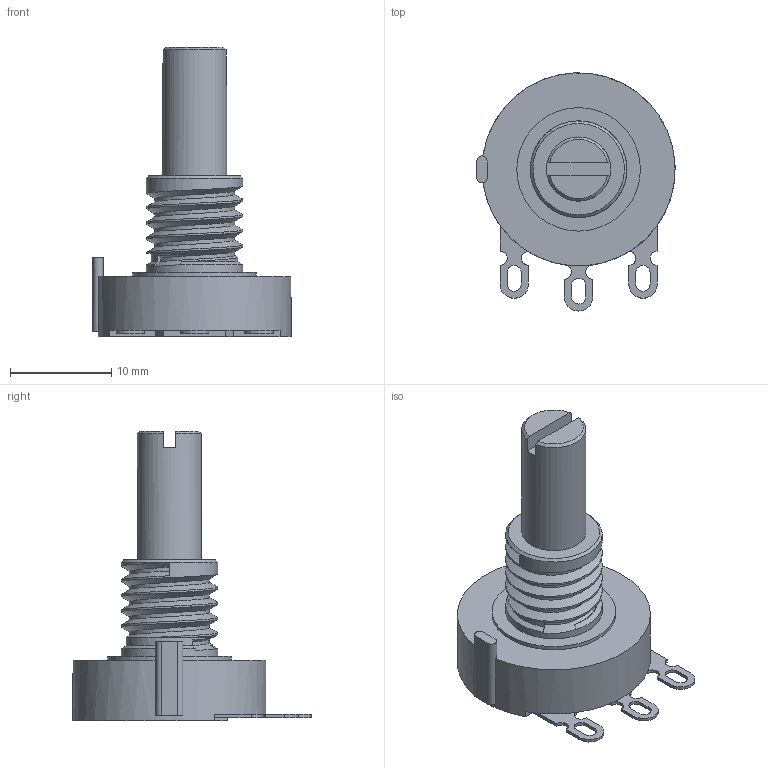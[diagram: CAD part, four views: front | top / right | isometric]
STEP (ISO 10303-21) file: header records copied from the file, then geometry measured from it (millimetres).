
FILE_DESCRIPTION((''),'2;1');
FILE_NAME('C:\Users\A.V.Nesterov\Desktop\111\3D\ТЗ\ТЗ 113959\РСГ01_3D.stp','2024-11-06T12:57:08',('A.V.Nesterov'),(''),'Autodesk Inventor 2012','Autodesk Inventor 2012','');
FILE_SCHEMA(('AUTOMOTIVE_DESIGN { 1 0 10303 214 1 1 1 1 }'));
Length unit declared in the file: millimetre
Products named in the file (1): РСГ01_3D
Bounding box: 19.55 x 23.5 x 28.57 mm (x, y, z)
Surface area: 1692.6 mm2 (no closed solid volume)
Topology: 0 solids, 1 shells, 81 faces, 256 edges, 180 vertices
Faces by surface type: plane 51, cylinder 24, cone 4, bspline 2
Full cylindrical faces by diameter (mm): 6.325 x1, 9.525 x1, 12.192 x1, 19.05 x1
Entity records: 3739 total; most frequent: CARTESIAN_POINT 1467, ORIENTED_EDGE 490, DIRECTION 463, EDGE_CURVE 245, VERTEX_POINT 174, AXIS2_PLACEMENT_3D 169, VECTOR 125, LINE 125
